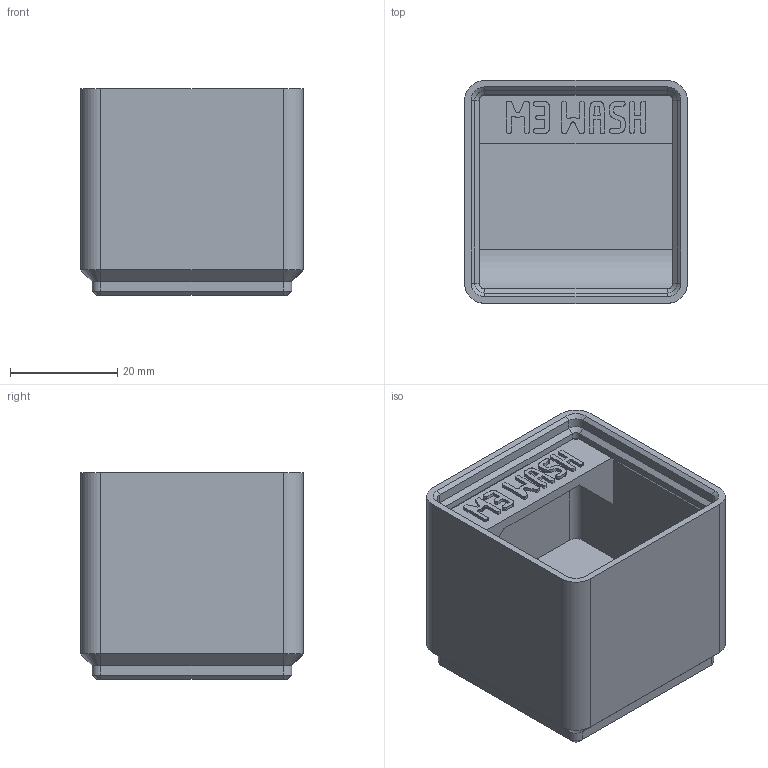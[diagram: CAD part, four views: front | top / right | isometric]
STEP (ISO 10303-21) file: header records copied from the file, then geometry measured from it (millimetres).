
FILE_DESCRIPTION(('Open CASCADE Model'),'2;1');
FILE_NAME('Open CASCADE Shape Model','2026-11-03T10:36:17',('Author'),( 'Open CASCADE'),'Open CASCADE STEP processor 8.0','build123d', 'Unknown');
FILE_SCHEMA(('AUTOMOTIVE_DESIGN { 1 0 10303 214 1 1 1 1 }'));
Products named in the file (1): COMPOUND
Bounding box: 41.5 x 41.5 x 38.55 mm (x, y, z)
Volume: 27582 mm3; surface area: 13888.1 mm2
Topology: 1 solids, 1 shells, 767 faces, 2211 edges, 1454 vertices
Faces by surface type: plane 726, cylinder 21, cone 20
Entity records: 52081 total; most frequent: CARTESIAN_POINT 10739, DIRECTION 6646, LINE 4995, VECTOR 4995, ORIENTED_EDGE 4422, PCURVE 4422, DEFINITIONAL_REPRESENTATION 4422, EDGE_CURVE 2211
